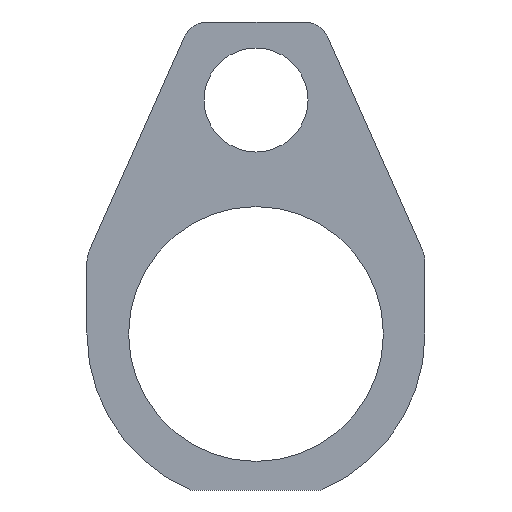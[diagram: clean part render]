
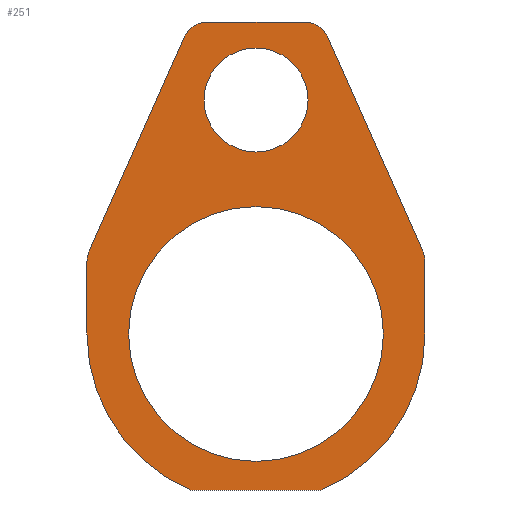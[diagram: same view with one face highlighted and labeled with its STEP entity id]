
A CAD part, front view. The second image highlights one B-rep face of the part: STEP entity #251.
In plain terms, the highlighted planar face has unit normal (0, -1, 0).
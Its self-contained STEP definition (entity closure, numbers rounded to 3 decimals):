
#251=ADVANCED_FACE('',(#601,#603,#605),#607,.F.);
#601=FACE_BOUND('',#602,.T.);
#602=EDGE_LOOP('',(#839,#840,#841,#842,#843,#844,#845,#846,#847,#848,#849,#850));
#603=FACE_BOUND('',#604,.T.);
#604=EDGE_LOOP('',(#851));
#605=FACE_BOUND('',#606,.T.);
#606=EDGE_LOOP('',(#852));
#607=PLANE('',#608);
#608=AXIS2_PLACEMENT_3D('',#609,#610,#611);
#609=CARTESIAN_POINT('',(0.,1.,0.));
#610=DIRECTION('',(0.,1.,0.));
#611=DIRECTION('',(1.,0.,0.));
#839=ORIENTED_EDGE('',*,*,#903,.F.);
#840=ORIENTED_EDGE('',*,*,#925,.F.);
#841=ORIENTED_EDGE('',*,*,#923,.F.);
#842=ORIENTED_EDGE('',*,*,#921,.F.);
#843=ORIENTED_EDGE('',*,*,#919,.F.);
#844=ORIENTED_EDGE('',*,*,#917,.F.);
#845=ORIENTED_EDGE('',*,*,#915,.F.);
#846=ORIENTED_EDGE('',*,*,#914,.F.);
#847=ORIENTED_EDGE('',*,*,#911,.F.);
#848=ORIENTED_EDGE('',*,*,#909,.F.);
#849=ORIENTED_EDGE('',*,*,#907,.F.);
#850=ORIENTED_EDGE('',*,*,#905,.F.);
#851=ORIENTED_EDGE('',*,*,#934,.T.);
#852=ORIENTED_EDGE('',*,*,#935,.T.);
#903=EDGE_CURVE('',#987,#989,#990,.F.);
#905=EDGE_CURVE('',#989,#992,#993,.T.);
#907=EDGE_CURVE('',#992,#995,#996,.T.);
#909=EDGE_CURVE('',#995,#998,#999,.T.);
#911=EDGE_CURVE('',#998,#1001,#1002,.T.);
#914=EDGE_CURVE('',#1001,#1004,#1006,.T.);
#915=EDGE_CURVE('',#1004,#1007,#1008,.F.);
#917=EDGE_CURVE('',#1007,#1010,#1011,.T.);
#919=EDGE_CURVE('',#1010,#1013,#1014,.F.);
#921=EDGE_CURVE('',#1013,#1016,#1017,.T.);
#923=EDGE_CURVE('',#1016,#1019,#1020,.F.);
#925=EDGE_CURVE('',#1019,#987,#1022,.T.);
#934=EDGE_CURVE('',#1039,#1039,#1040,.F.);
#935=EDGE_CURVE('',#1041,#1041,#1042,.F.);
#987=VERTEX_POINT('',#1160);
#989=VERTEX_POINT('',#1164);
#990=CIRCLE('',#1165,5.);
#992=VERTEX_POINT('',#1172);
#993=LINE('',#1173,#1174);
#995=VERTEX_POINT('',#1179);
#996=CIRCLE('',#1180,32.5);
#998=VERTEX_POINT('',#1187);
#999=LINE('',#1188,#1189);
#1001=VERTEX_POINT('',#1194);
#1002=CIRCLE('',#1195,32.5);
#1004=VERTEX_POINT('',#1202);
#1006=LINE('',#1206,#1207);
#1007=VERTEX_POINT('',#1209);
#1008=CIRCLE('',#1210,5.);
#1010=VERTEX_POINT('',#1217);
#1011=LINE('',#1218,#1219);
#1013=VERTEX_POINT('',#1224);
#1014=CIRCLE('',#1225,5.);
#1016=VERTEX_POINT('',#1232);
#1017=LINE('',#1233,#1234);
#1019=VERTEX_POINT('',#1239);
#1020=CIRCLE('',#1240,5.);
#1022=LINE('',#1247,#1248);
#1039=VERTEX_POINT('',#1290);
#1040=CIRCLE('',#1291,10.);
#1041=VERTEX_POINT('',#1295);
#1042=CIRCLE('',#1296,24.5);
#1160=CARTESIAN_POINT('',(32.069,1.,0.97));
#1164=CARTESIAN_POINT('',(32.5,1.,-1.061));
#1165=AXIS2_PLACEMENT_3D('',#1166,#1167,#1168);
#1166=CARTESIAN_POINT('',(27.5,1.,-1.061));
#1167=DIRECTION('',(0.,-1.,0.));
#1168=DIRECTION('',(1.,0.,0.));
#1172=CARTESIAN_POINT('',(32.5,1.,-15.));
#1173=CARTESIAN_POINT('',(32.5,1.,-1.061));
#1174=VECTOR('',#1175,1.);
#1175=DIRECTION('',(0.,0.,-1.));
#1179=CARTESIAN_POINT('',(12.5,1.,-45.));
#1180=AXIS2_PLACEMENT_3D('',#1181,#1182,#1183);
#1181=CARTESIAN_POINT('',(0.,1.,-15.));
#1182=DIRECTION('',(0.,1.,0.));
#1183=DIRECTION('',(1.,0.,0.));
#1187=CARTESIAN_POINT('',(-12.5,1.,-45.));
#1188=CARTESIAN_POINT('',(12.5,1.,-45.));
#1189=VECTOR('',#1190,1.);
#1190=DIRECTION('',(-1.,0.,0.));
#1194=CARTESIAN_POINT('',(-32.5,1.,-15.));
#1195=AXIS2_PLACEMENT_3D('',#1196,#1197,#1198);
#1196=CARTESIAN_POINT('',(0.,1.,-15.));
#1197=DIRECTION('',(0.,1.,0.));
#1198=DIRECTION('',(-0.385,0.,-0.923));
#1202=CARTESIAN_POINT('',(-32.5,1.,-1.061));
#1206=CARTESIAN_POINT('',(-32.5,1.,-15.));
#1207=VECTOR('',#1208,1.);
#1208=DIRECTION('',(0.,0.,1.));
#1209=CARTESIAN_POINT('',(-32.069,1.,0.97));
#1210=AXIS2_PLACEMENT_3D('',#1211,#1212,#1213);
#1211=CARTESIAN_POINT('',(-27.5,1.,-1.061));
#1212=DIRECTION('',(0.,-1.,0.));
#1213=DIRECTION('',(-0.914,0.,0.406));
#1217=CARTESIAN_POINT('',(-13.82,1.,42.031));
#1218=CARTESIAN_POINT('',(-32.069,1.,0.97));
#1219=VECTOR('',#1220,1.);
#1220=DIRECTION('',(0.406,0.,0.914));
#1224=CARTESIAN_POINT('',(-9.251,1.,45.));
#1225=AXIS2_PLACEMENT_3D('',#1226,#1227,#1228);
#1226=CARTESIAN_POINT('',(-9.251,1.,40.));
#1227=DIRECTION('',(0.,-1.,0.));
#1228=DIRECTION('',(0.,0.,1.));
#1232=CARTESIAN_POINT('',(9.251,1.,45.));
#1233=CARTESIAN_POINT('',(-9.251,1.,45.));
#1234=VECTOR('',#1235,1.);
#1235=DIRECTION('',(1.,0.,0.));
#1239=CARTESIAN_POINT('',(13.82,1.,42.031));
#1240=AXIS2_PLACEMENT_3D('',#1241,#1242,#1243);
#1241=CARTESIAN_POINT('',(9.251,1.,40.));
#1242=DIRECTION('',(0.,-1.,0.));
#1243=DIRECTION('',(0.914,0.,0.406));
#1247=CARTESIAN_POINT('',(13.82,1.,42.031));
#1248=VECTOR('',#1249,1.);
#1249=DIRECTION('',(0.406,0.,-0.914));
#1290=CARTESIAN_POINT('',(10.,1.,30.));
#1291=AXIS2_PLACEMENT_3D('',#1292,#1293,#1294);
#1292=CARTESIAN_POINT('',(0.,1.,30.));
#1293=DIRECTION('',(0.,-1.,0.));
#1294=DIRECTION('',(1.,0.,0.));
#1295=CARTESIAN_POINT('',(24.5,1.,-15.));
#1296=AXIS2_PLACEMENT_3D('',#1297,#1298,#1299);
#1297=CARTESIAN_POINT('',(0.,1.,-15.));
#1298=DIRECTION('',(0.,-1.,0.));
#1299=DIRECTION('',(1.,0.,0.));
